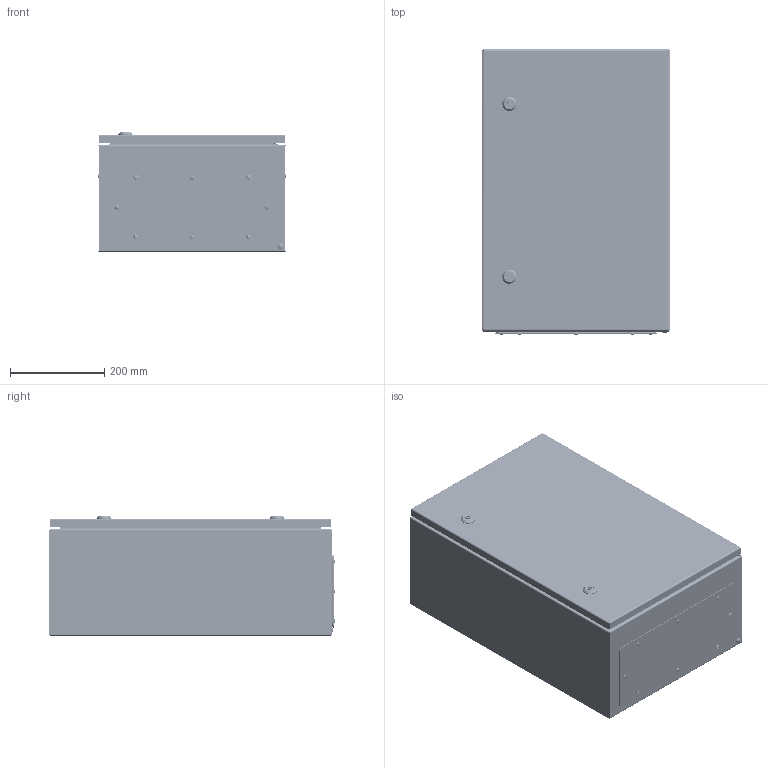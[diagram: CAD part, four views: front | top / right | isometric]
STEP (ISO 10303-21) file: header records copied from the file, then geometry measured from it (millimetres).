
FILE_DESCRIPTION (( 'STEP AP214' ), '1' );
FILE_NAME ('T-CCS 60.40.25.STEP', '2024-08-20T08:49:43', ( '' ), ( '' ), 'SwSTEP 2.0', 'SolidWorks 2019', '' );
FILE_SCHEMA (( 'AUTOMOTIVE_DESIGN' ));
Length unit declared in the file: millimetre
Products named in the file (1): T-CCS 60.40.25
Bounding box: 400 x 606.62 x 254.15 mm (x, y, z)
Volume: 2744521.1 mm3; surface area: 2918075.9 mm2
Topology: 83 solids, 83 shells, 4032 faces, 10256 edges, 6494 vertices
Faces by surface type: plane 2014, cylinder 1335, cone 352, bspline 168, torus 120, sphere 43
Entity records: 217306 total; most frequent: CARTESIAN_POINT 77250, ORIENTED_EDGE 20394, DIRECTION 19032, EDGE_CURVE 10197, AXIS2_PLACEMENT_3D 6561, VERTEX_POINT 6492, LINE 5910, VECTOR 5910
